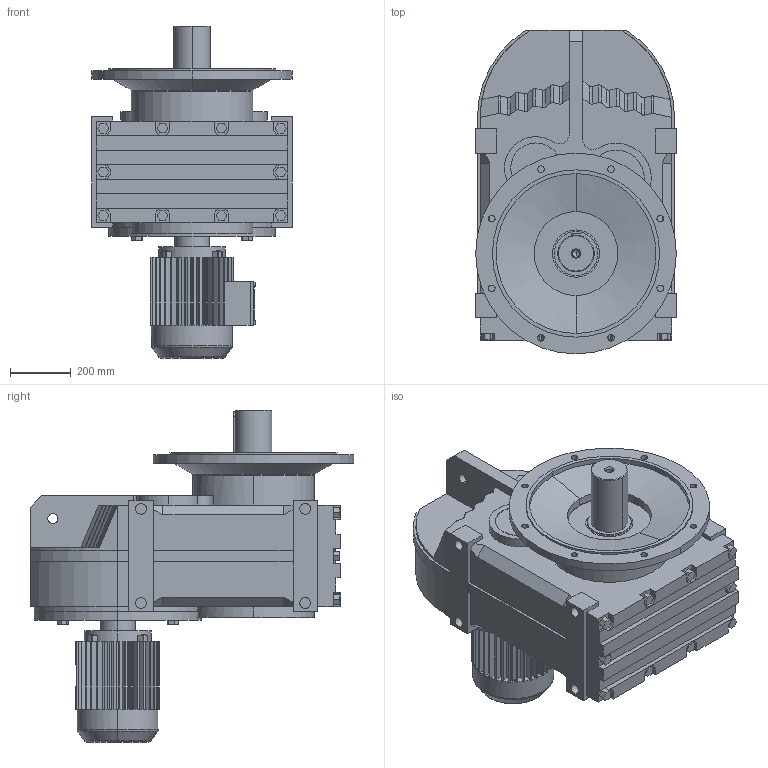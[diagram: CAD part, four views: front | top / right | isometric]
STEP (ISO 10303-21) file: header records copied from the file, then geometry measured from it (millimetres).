
FILE_DESCRIPTION(('Open CASCADE Model'),'2;1');
FILE_NAME('Open CASCADE Shape Model','2018-09-12T10:34:25',('Author'),( 'Open CASCADE'),'Open CASCADE STEP processor 6.3','Open CASCADE 6.3' ,'Unknown');
FILE_SCHEMA(('AUTOMOTIVE_DESIGN_CC2 { 1 2 10303 214 -1 1 5 4 }'));
Length unit declared in the file: millimetre
Products named in the file (5): 31_FF157-Y132M; FA27‵157_157.step; 萇儂_550_Y132M.step; す瑩妗陑粣F_157.step; 楊擘F_157.step
Assembly tree (4 placements, depth 2):
  31_FF157-Y132M
    FA27‵157_157.step
    萇儂_550_Y132M.step
    す瑩妗陑粣F_157.step
    楊擘F_157.step
Bounding box: 660 x 1065 x 1092 mm (x, y, z)
Volume: 251296245.9 mm3; surface area: 5326643.9 mm2
Topology: 4 solids, 4 shells, 828 faces, 2172 edges, 1412 vertices
Faces by surface type: plane 567, cylinder 229, bspline 16, cone 12, torus 4
Entity records: 56383 total; most frequent: CARTESIAN_POINT 14958, DIRECTION 7187, ORIENTED_EDGE 4340, PCURVE 4340, DEFINITIONAL_REPRESENTATION 4340, LINE 3913, VECTOR 3913, EDGE_CURVE 2170
